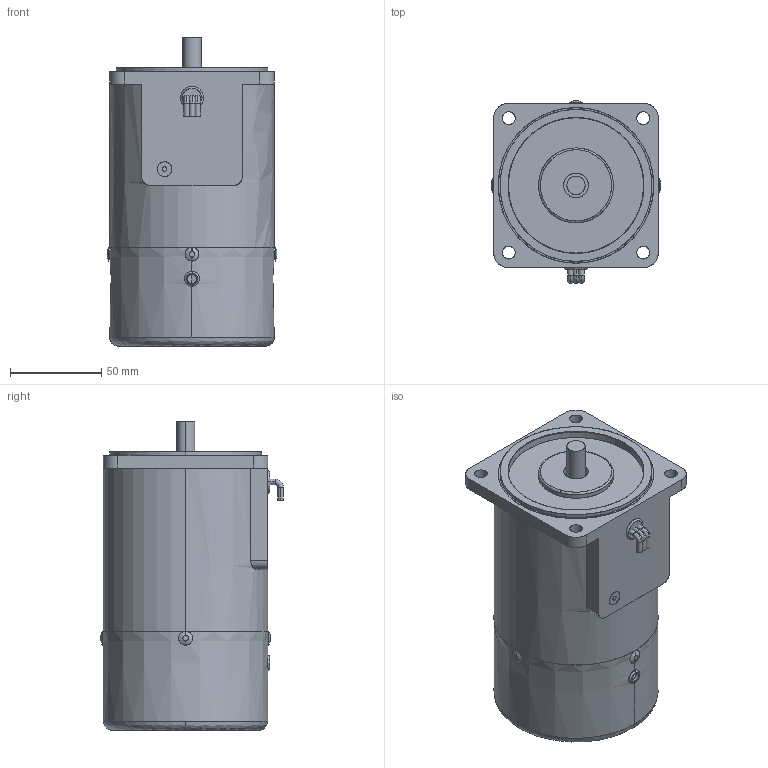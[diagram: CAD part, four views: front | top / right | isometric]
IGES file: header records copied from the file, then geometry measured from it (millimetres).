
Start section: SolidWorks IGES file using analytic representation for surfaces
Bounding box: 93 x 100 x 169 mm (x, y, z)
Surface area: 133559.6 mm2 (no closed solid volume)
Topology: 0 solids, 0 shells, 161 faces, 3956 edges, 3956 vertices
Faces by surface type: revolution 92, bspline 69
